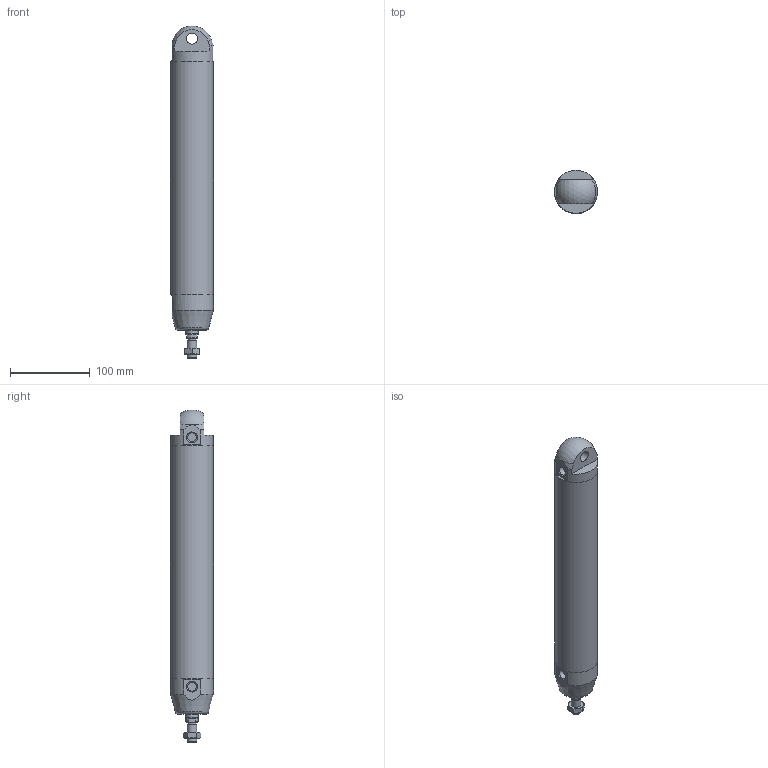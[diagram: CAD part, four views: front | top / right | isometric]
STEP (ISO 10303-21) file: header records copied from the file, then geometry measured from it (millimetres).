
FILE_DESCRIPTION(/* description */ (''),/* implementation_level */ '2;1');
FILE_NAME(/* name */ 'I:\Area Tecnica\Documenti\A-Manieri\_Inventor\12X\12X#A_###_####_#_#\12XAA_050_0250_#_#.stp',/* time_stamp */ '2015-04-22T12:06:19+02:00',/* author */ ('maniean1'),/* organization */ ('Pneumax S.p.A.'),/* preprocessor_version */ 'ST-DEVELOPER v15.2',/* originating_system */ 'Autodesk Inventor 2014',/* authorisation */ '');
FILE_SCHEMA (('AUTOMOTIVE_DESIGN { 1 0 10303 214 3 1 1 }'));
Length unit declared in the file: millimetre
Products named in the file (6): C1250_619-0250; 12X50_613; 12X50_605; S12X50_0250; 12X_50_11; 12XAA_050_0250_#_#
Bounding box: 54 x 54 x 416.83 mm (x, y, z)
Volume: 386094.4 mm3; surface area: 147929.4 mm2
Topology: 5 solids, 5 shells, 59 faces, 126 edges, 81 vertices
Faces by surface type: plane 31, cylinder 14, cone 12, torus 1, sphere 1
Full cylindrical faces by diameter (mm): 10.2 x1, 11.4 x2, 12 x2, 14 x2, 15.6 x1, 16 x1, 50 x2, 54 x3
Entity records: 1560 total; most frequent: CARTESIAN_POINT 288, DIRECTION 266, ORIENTED_EDGE 196, AXIS2_PLACEMENT_3D 120, EDGE_CURVE 98, EDGE_LOOP 94, VERTEX_POINT 76, ADVANCED_FACE 59
